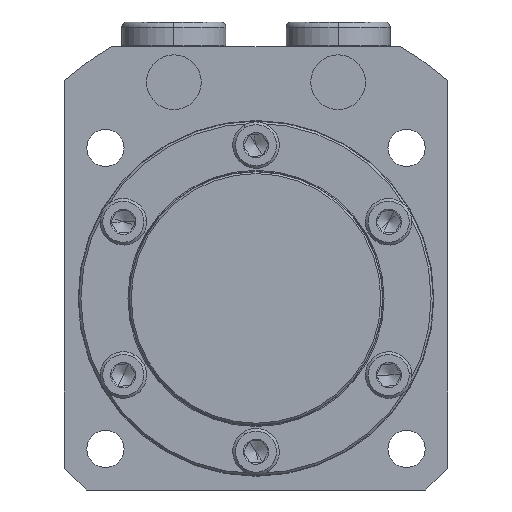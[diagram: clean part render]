
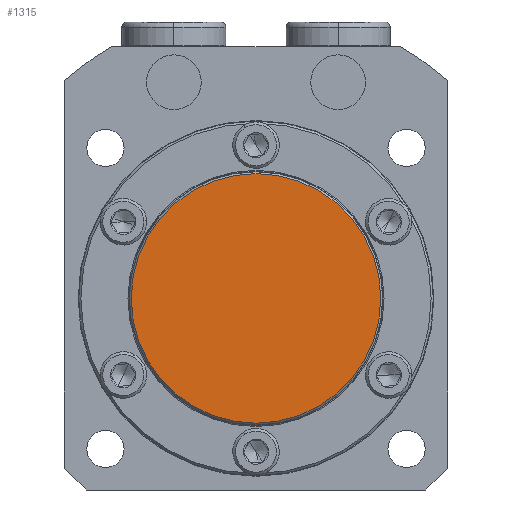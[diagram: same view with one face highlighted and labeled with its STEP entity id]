
A CAD part, front view. The second image highlights one B-rep face of the part: STEP entity #1315.
In plain terms, the highlighted planar face has unit normal (0, -1, 0).
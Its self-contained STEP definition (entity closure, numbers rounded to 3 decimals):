
#632 = CARTESIAN_POINT ( 'NONE',  ( 0., -10.5, 0. ) ) ;
#633 = DIRECTION ( 'NONE',  ( 0., -1., 0. ) ) ;
#634 = DIRECTION ( 'NONE',  ( 0., 0., -1. ) ) ;
#1289 = EDGE_CURVE ( 'NONE', #2719, #2756, #5141, .T. ) ;
#1315 = ADVANCED_FACE ( 'NONE', ( #1444 ), #1445, .T. ) ;
#1420 = CARTESIAN_POINT ( 'NONE',  ( 0., -10.5, 0. ) ) ;
#1444 = FACE_OUTER_BOUND ( 'NONE', #2832, .T. ) ;
#1445 = PLANE ( 'NONE',  #5181 ) ;
#1448 = DIRECTION ( 'NONE',  ( 0., -1., 0. ) ) ;
#1449 = DIRECTION ( 'NONE',  ( 0., 0., -1. ) ) ;
#2598 = EDGE_CURVE ( 'NONE', #2756, #2719, #2946, .T. ) ;
#2719 = VERTEX_POINT ( 'NONE', #3622 ) ;
#2756 = VERTEX_POINT ( 'NONE', #3659 ) ;
#2832 = EDGE_LOOP ( 'NONE', ( #4549, #4550 ) ) ;
#2946 = CIRCLE ( 'NONE', #2953, 22.8 ) ;
#2953 = AXIS2_PLACEMENT_3D ( 'NONE', #3481, #3482, #3483 ) ;
#3481 = CARTESIAN_POINT ( 'NONE',  ( 0., -10.5, 0. ) ) ;
#3482 = DIRECTION ( 'NONE',  ( 0., -1., 0. ) ) ;
#3483 = DIRECTION ( 'NONE',  ( 0., 0., -1. ) ) ;
#3622 = CARTESIAN_POINT ( 'NONE',  ( 0., -10.5, 22.8 ) ) ;
#3659 = CARTESIAN_POINT ( 'NONE',  ( 0., -10.5, -22.8 ) ) ;
#4549 = ORIENTED_EDGE ( 'NONE', *, *, #1289, .T. ) ;
#4550 = ORIENTED_EDGE ( 'NONE', *, *, #2598, .T. ) ;
#5141 = CIRCLE ( 'NONE', #5144, 22.8 ) ;
#5144 = AXIS2_PLACEMENT_3D ( 'NONE', #632, #633, #634 ) ;
#5181 = AXIS2_PLACEMENT_3D ( 'NONE', #1420, #1448, #1449 ) ;
